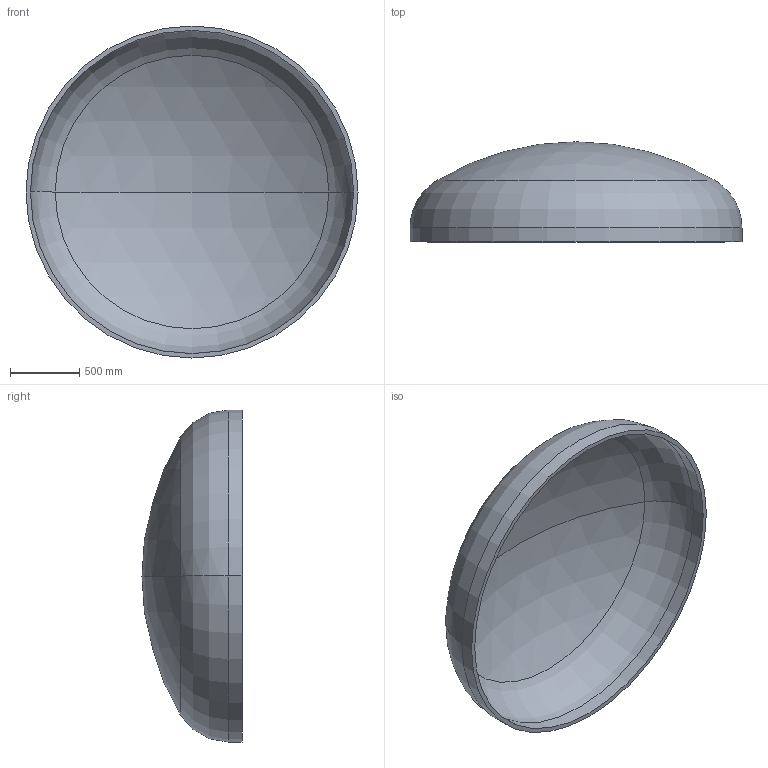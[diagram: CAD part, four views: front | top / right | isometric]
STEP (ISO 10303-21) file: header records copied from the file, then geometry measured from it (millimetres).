
FILE_DESCRIPTION (( 'STEP AP203' ), '1' );
FILE_NAME ('DIN 28013 Korbbogenform_-_Boden DIN 28013 - 2400 x 100 - I - s=32.step', '2016-07-01T15:16:28', ( '' ), ( '' ), 'SwSTEP 2.0', 'SolidWorks 2013', '' );
FILE_SCHEMA (( 'CONFIG_CONTROL_DESIGN' ));
Length unit declared in the file: millimetre
Products named in the file (1): DIN 28013 Korbbogenform_-_Boden DIN 28013 - 2400 x 100 - I - s=32
Bounding box: 2400 x 723.21 x 2400 mm (x, y, z)
Volume: 220842538.6 mm3; surface area: 14042855.8 mm2
Topology: 1 solids, 1 shells, 13 faces, 24 edges, 14 vertices
Faces by surface type: torus 4, cylinder 4, sphere 4, plane 1
Entity records: 407 total; most frequent: DIRECTION 72, CARTESIAN_POINT 52, ORIENTED_EDGE 48, AXIS2_PLACEMENT_3D 34, EDGE_CURVE 24, CIRCLE 20, VERTEX_POINT 14, EDGE_LOOP 14
